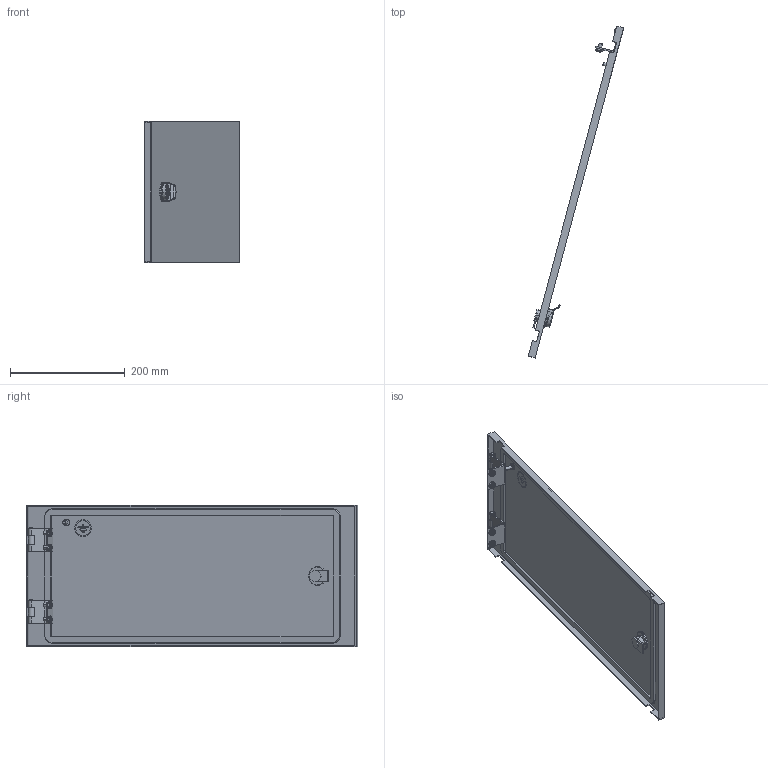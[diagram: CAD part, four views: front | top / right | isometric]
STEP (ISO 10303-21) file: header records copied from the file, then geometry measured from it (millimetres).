
FILE_DESCRIPTION (( 'STEP AP214' ), '1' );
FILE_NAME ('FO-00-ESD-025-060 Äâåðü ñåêöèîííàÿ âíåøíÿÿ 250x600 ìì.STEP', '2025-08-20T06:14:49', ( '' ), ( '' ), 'SwSTEP 2.0', 'SolidWorks 2023', '' );
FILE_SCHEMA (( 'AUTOMOTIVE_DESIGN' ));
Length unit declared in the file: millimetre
Products named in the file (4): FO-00-ESD-025-060 Дверь секционная внешняя 250x600 мм.STEP; Петля_3.STEP; FO-00-ESD-025-060 Дверь секционная внешняя 250x600 мм; FO-00-ESD-025-060 Дверь секционная внешняя 250×600 мм.STEP
Assembly tree (4 placements, depth 3):
  FO-00-ESD-025-060 Дверь секционная внешняя 250x600 мм
    FO-00-ESD-025-060 Дверь секционная внешняя 250x600 мм.STEP
      FO-00-ESD-025-060 Дверь секционная внешняя 250×600 мм.STEP
      Петля_3.STEP  x2
Bounding box: 165.93 x 578 x 246 mm (x, y, z)
Volume: 418265.1 mm3; surface area: 361158.4 mm2
Topology: 3 solids, 9 shells, 519 faces, 1323 edges, 854 vertices
Faces by surface type: plane 243, cylinder 202, cone 30, torus 29, bspline 15
Entity records: 13899 total; most frequent: CARTESIAN_POINT 3486, DIRECTION 2186, ORIENTED_EDGE 2136, EDGE_CURVE 1068, AXIS2_PLACEMENT_3D 764, VERTEX_POINT 692, VECTOR 658, LINE 658
